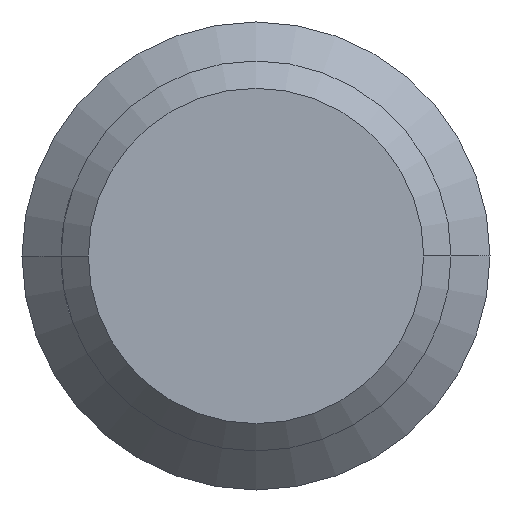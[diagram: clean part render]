
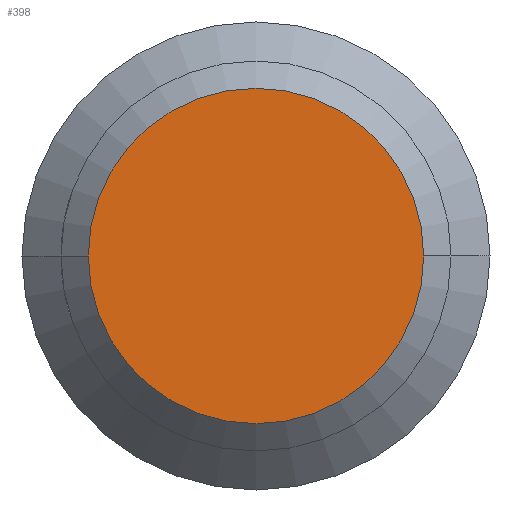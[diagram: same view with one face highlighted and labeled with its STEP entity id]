
A CAD part, left-side view. The second image highlights one B-rep face of the part: STEP entity #398.
In plain terms, the highlighted planar face has unit normal (-1, 0, 0).
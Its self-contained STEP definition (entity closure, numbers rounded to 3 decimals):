
#13 = CARTESIAN_POINT ( 'NONE',  ( -95., -10.75, 0. ) ) ;
#19 = VERTEX_POINT ( 'NONE', #541 ) ;
#168 = CIRCLE ( 'NONE', #169, 10.75 ) ;
#169 = AXIS2_PLACEMENT_3D ( 'NONE', #172, #173, #174 ) ;
#172 = CARTESIAN_POINT ( 'NONE',  ( -95., 0., 0. ) ) ;
#173 = DIRECTION ( 'NONE',  ( -1., 0., 0. ) ) ;
#174 = DIRECTION ( 'NONE',  ( 0., -1., 0. ) ) ;
#187 = FACE_OUTER_BOUND ( 'NONE', #305, .T. ) ;
#190 = PLANE ( 'NONE',  #191 ) ;
#191 = AXIS2_PLACEMENT_3D ( 'NONE', #192, #193, #194 ) ;
#192 = CARTESIAN_POINT ( 'NONE',  ( -95., 0., 0. ) ) ;
#193 = DIRECTION ( 'NONE',  ( -1., 0., 0. ) ) ;
#194 = DIRECTION ( 'NONE',  ( 0., -1., 0. ) ) ;
#222 = VERTEX_POINT ( 'NONE', #13 ) ;
#228 = CIRCLE ( 'NONE', #229, 10.75 ) ;
#229 = AXIS2_PLACEMENT_3D ( 'NONE', #230, #231, #232 ) ;
#230 = CARTESIAN_POINT ( 'NONE',  ( -95., 0., 0. ) ) ;
#231 = DIRECTION ( 'NONE',  ( -1., 0., 0. ) ) ;
#232 = DIRECTION ( 'NONE',  ( 0., -1., 0. ) ) ;
#305 = EDGE_LOOP ( 'NONE', ( #655, #454 ) ) ;
#393 = EDGE_CURVE ( 'NONE', #222, #19, #168, .T. ) ;
#398 = ADVANCED_FACE ( 'NONE', ( #187 ), #190, .T. ) ;
#454 = ORIENTED_EDGE ( 'NONE', *, *, #393, .T. ) ;
#499 = EDGE_CURVE ( 'NONE', #19, #222, #228, .T. ) ;
#541 = CARTESIAN_POINT ( 'NONE',  ( -95., 10.75, 0. ) ) ;
#655 = ORIENTED_EDGE ( 'NONE', *, *, #499, .T. ) ;
